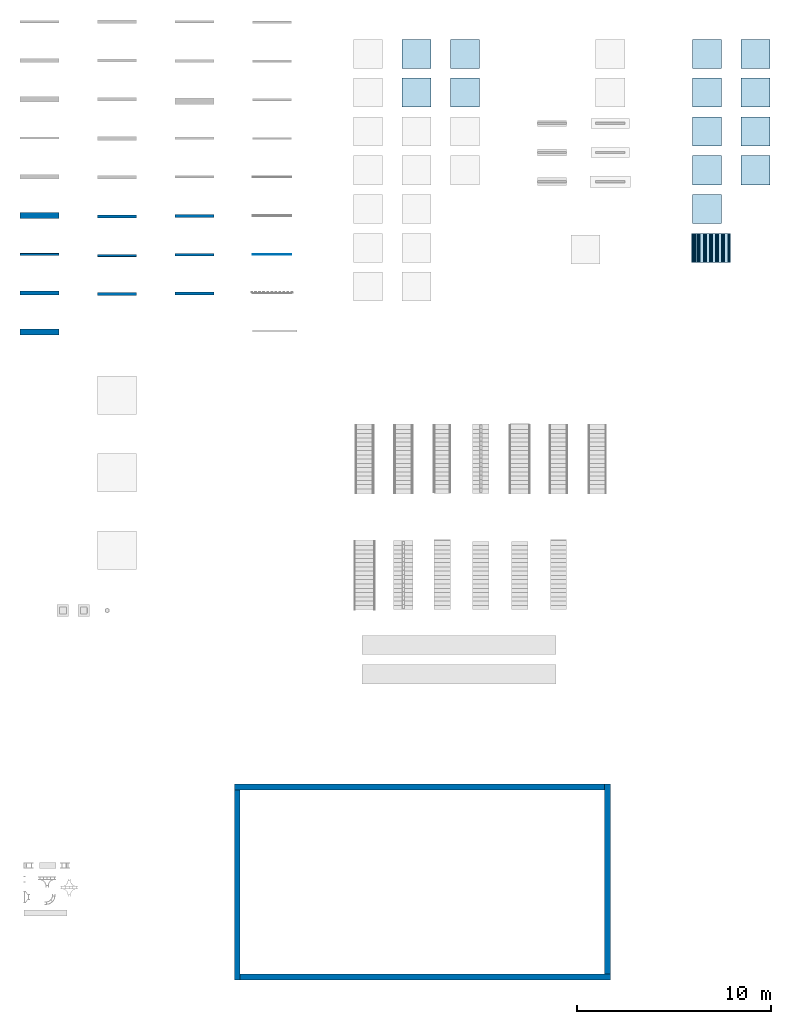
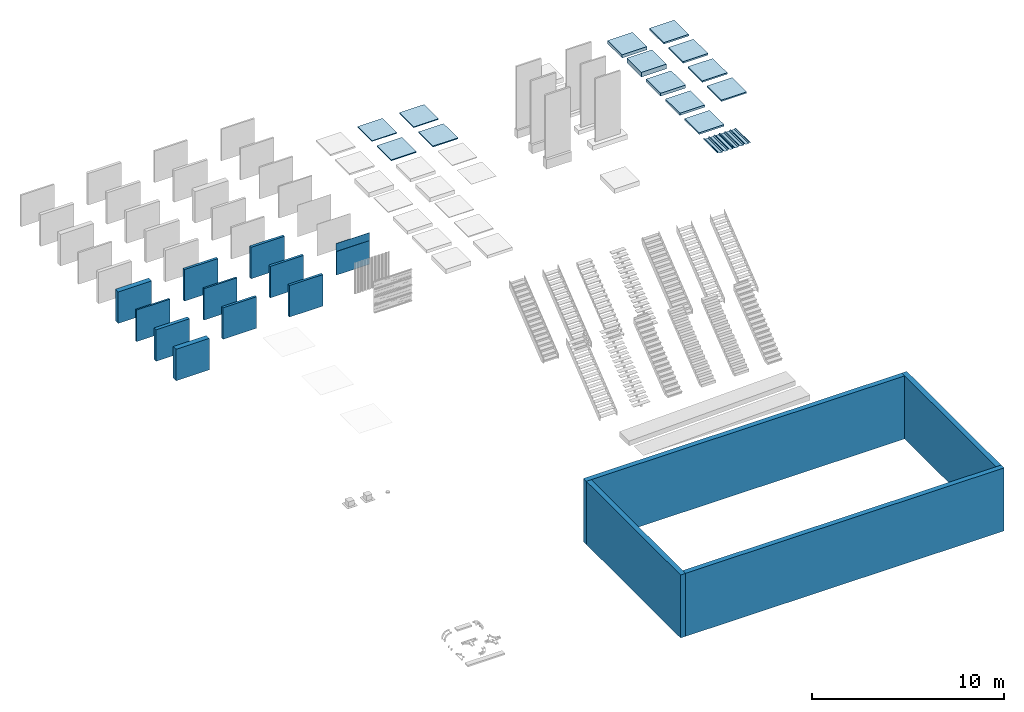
# One storey, part 4 of 13: 16 walls, 13 slabs, 2 plates, 10 elements without a shape of their own.
"""IFC2X3 building model written with IfcOpenShell, lengths in millimetres."""

from ifc_helpers import new_model, entity, si_unit, converted_unit, derived_unit, direction, frame, frame_2d, origin, origin_2d_with_axis, place, context, subcontext, project, spatial, polyline, rectangle, outline, extrude, source, transform, mapped, material, layer, layer_set, layer_usage, type_object, type_shapes, element, aggregate, save


model = new_model("IFC2X3")

# Units and contexts
model_context = context("Model", 3, precision=0.01, world=origin(), true_north=direction((6.12303176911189e-17, 1.0)))
body_context = subcontext(model_context, "Body", "Model", "MODEL_VIEW")
ifc_project = project(units=[si_unit("LENGTHUNIT", "METRE", prefix="MILLI"), si_unit("AREAUNIT", "SQUARE_METRE"), si_unit("VOLUMEUNIT", "CUBIC_METRE"), converted_unit("PLANEANGLEUNIT", "DEGREE", entity("IfcRatioMeasure", 0.0174532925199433), si_unit("PLANEANGLEUNIT", "RADIAN"), dimensions=[0, 0, 0, 0, 0, 0, 0]), si_unit("MASSUNIT", "GRAM", prefix="KILO"), si_unit("TIMEUNIT", "SECOND"), si_unit("FREQUENCYUNIT", "HERTZ"), si_unit("THERMODYNAMICTEMPERATUREUNIT", "KELVIN"), derived_unit("THERMALTRANSMITTANCEUNIT", [(si_unit("MASSUNIT", "GRAM", prefix="KILO"), 1), (si_unit("THERMODYNAMICTEMPERATUREUNIT", "KELVIN"), -1), (si_unit("TIMEUNIT", "SECOND"), -3)]), derived_unit("VOLUMETRICFLOWRATEUNIT", [(si_unit("LENGTHUNIT", "METRE"), 3), (si_unit("TIMEUNIT", "SECOND"), -1)]), si_unit("ELECTRICCURRENTUNIT", "AMPERE"), si_unit("ELECTRICVOLTAGEUNIT", "VOLT"), si_unit("POWERUNIT", "WATT")], contexts=[model_context])

# Site, building, storey
site_placement = place(None, origin())
site = spatial("IfcSite", under=ifc_project, at=site_placement, Name="Surface", CompositionType="ELEMENT")
building_placement = place(site_placement, origin())
building = spatial("IfcBuilding", under=site, at=building_placement, CompositionType="ELEMENT")
storey_placement = place(building_placement, origin())
storey = spatial("IfcBuildingStorey", under=building, at=storey_placement, Name="00_begane grond", CompositionType="ELEMENT", Elevation=0.0)

# Roof, plates
curtain_wall_type = type_object("IfcCurtainWallType", Name="Sloped Glazing:27_CW_SAB58KD_945mm", PredefinedType="NOTDEFINED")
roof_1_placement = place(storey_placement, origin())
roof_1 = element("IfcRoof", 1, at=roof_1_placement, inside=storey, type_object=curtain_wall_type, Name="Sloped Glazing:27_CW_SAB58KD_945mm", ObjectType="Sloped Glazing:27_CW_SAB58KD_945mm:1393", ShapeType="NOTDEFINED")
plate_type_1 = type_object("IfcPlateType", Name="SAB58KD_945", PredefinedType="NOTDEFINED")
shared_shape_1 = source(origin(), body_context, "Body", "SweptSolid", [
    extrude(outline(polyline([(-41.6883369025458, -6.31626557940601), (-38.0537855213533, -6.31626557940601), (-6.51645922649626, 14.7086186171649), (-5.11855484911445, 18.063589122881), (44.5780594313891, 51.1946653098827), (119.78533029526, 31.0648525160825), (162.475119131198, 59.5247117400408), (172.819626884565, 136.689043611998), (222.51559042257, 169.819685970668), (226.150141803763, 169.819685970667), (257.68746809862, 190.844570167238), (259.085372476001, 194.199540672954), (308.781608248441, 227.330364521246), (383.988986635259, 207.200623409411), (416.028687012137, 228.560423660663), (397.342743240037, 286.371121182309), (408.300957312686, 293.676597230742), (418.90416186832, 283.514998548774), (420.28798638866, 284.958961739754), (408.526464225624, 296.23063602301), (394.974288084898, 287.195851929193), (413.660231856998, 229.385154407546), (383.632257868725, 209.366505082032), (308.424879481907, 229.496246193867), (257.472122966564, 195.527741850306), (256.074218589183, 192.17277134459), (225.544590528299, 171.819685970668), (221.910039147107, 171.819685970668), (170.95755361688, 137.851362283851), (160.613045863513, 60.6870304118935), (119.428602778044, 33.2307350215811), (44.2213319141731, 53.3605478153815), (-6.73180435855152, 19.3917903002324), (-8.12970873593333, 16.0368197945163), (-38.6593367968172, -4.31626557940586), (-42.2938881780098, -4.31626557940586), (-93.2479062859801, -38.2856109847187), (-103.592414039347, -115.449942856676), (-144.776857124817, -142.906238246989), (-219.984127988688, -122.776425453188), (-270.937264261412, -156.745182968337), (-272.335168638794, -160.100153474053), (-302.864796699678, -180.453238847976), (-306.49934808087, -180.453238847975), (-357.44939838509, -214.419939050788), (-368.151786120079, -294.22655842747), (-407.873068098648, -320.707413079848), (-423.86478432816, -316.569685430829), (-432.461053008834, -311.156883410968), (-433.526726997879, -312.849319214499), (-424.667084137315, -318.427959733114), (-407.507999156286, -322.867734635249), (-366.289758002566, -295.388907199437), (-355.587370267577, -215.582287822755), (-305.893796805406, -182.453238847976), (-302.259245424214, -182.453238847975), (-270.721919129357, -161.428354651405), (-269.324014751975, -158.073384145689), (-219.627400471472, -124.942307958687), (-144.420129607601, -145.072120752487), (-101.730340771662, -116.612261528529), (-91.3858330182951, -39.4479296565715), (-41.6883369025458, -6.31626557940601)])), frame((534.253619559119, 42.597426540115, 0.0), z_axis=(0.0, 0.0, 1.0), x_axis=(0.832050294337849, -0.55470019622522, 0.0)), (0.0, 0.0, 1.0), 1500.0),
])
type_shapes(plate_type_1, [shared_shape_1])
plate_1_placement = place(roof_1_placement, frame((34647.8084880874, -13415.0, 64.0), z_axis=(0.0, 1.0, 0.0), x_axis=(1.0, 0.0, 0.0)))
plate_1 = element("IfcPlate", 2, at=plate_1_placement, type_object=plate_type_1, Name="27_CWP_SAB58KD_945:SAB58KD_945", ObjectType="SAB58KD_945", context=body_context, shape_type="MappedRepresentation", body=[
    mapped(shared_shape_1, transform((0.0, 0.0, 0.0), scale=1.0)),
])
plate_type_2 = type_object("IfcPlateType", Name="SAB58KD_945", PredefinedType="NOTDEFINED")
shared_shape_2 = source(origin(), body_context, "Body", "SweptSolid", [
    extrude(outline(polyline([(-41.688336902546, -6.31626557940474), (-38.0537855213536, -6.31626557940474), (-6.51645922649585, 14.7086186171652), (-5.11855484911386, 18.0635891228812), (44.5780594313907, 51.1946653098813), (119.785330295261, 31.0648525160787), (162.4751191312, 59.5247117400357), (172.819626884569, 136.689043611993), (222.515590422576, 169.819685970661), (226.150141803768, 169.81968597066), (257.687468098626, 190.84457016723), (259.085372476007, 194.199540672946), (308.781608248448, 227.330364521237), (383.988986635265, 207.200623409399), (416.028687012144, 228.56042366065), (397.342743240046, 286.371121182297), (408.300957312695, 293.676597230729), (418.904161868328, 283.514998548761), (420.287986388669, 284.958961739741), (408.526464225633, 296.230636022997), (394.974288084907, 287.19585192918), (413.660231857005, 229.385154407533), (383.632257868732, 209.36650508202), (308.424879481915, 229.496246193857), (257.47212296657, 195.527741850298), (256.074218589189, 192.172771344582), (225.544590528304, 171.81968597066), (221.910039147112, 171.819685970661), (170.957553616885, 137.851362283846), (160.613045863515, 60.6870304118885), (119.428602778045, 33.2307350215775), (44.2213319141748, 53.3605478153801), (-6.73180435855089, 19.3917903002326), (-8.1297087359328, 16.0368197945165), (-38.6593367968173, -4.31626557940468), (-42.2938881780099, -4.31626557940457), (-93.2479062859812, -38.2856109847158), (-103.592414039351, -115.449942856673), (-144.776857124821, -142.906238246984), (-219.984127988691, -122.776425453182), (-270.937264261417, -156.745182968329), (-272.335168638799, -160.100153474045), (-302.864796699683, -180.453238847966), (-306.499348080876, -180.453238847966), (-357.449398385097, -214.419939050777), (-368.151786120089, -294.226558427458), (-407.873068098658, -320.707413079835), (-423.86478432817, -316.569685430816), (-432.461053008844, -311.156883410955), (-433.526726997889, -312.849319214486), (-424.667084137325, -318.427959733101), (-407.507999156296, -322.867734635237), (-366.289758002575, -295.388907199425), (-355.587370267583, -215.582287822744), (-305.893796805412, -182.453238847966), (-302.259245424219, -182.453238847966), (-270.721919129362, -161.428354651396), (-269.32401475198, -158.07338414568), (-219.627400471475, -124.94230795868), (-144.420129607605, -145.072120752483), (-101.730340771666, -116.612261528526), (-91.3858330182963, -39.4479296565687), (-41.688336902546, -6.31626557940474)])), frame((534.253619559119, 42.597426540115, 0.0), z_axis=(0.0, 0.0, 1.0), x_axis=(0.832050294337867, -0.554700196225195, 0.0)), (0.0, 0.0, 1.0), 1500.0),
])
type_shapes(plate_type_2, [shared_shape_2])
plate_2_placement = place(roof_1_placement, frame((35592.8084880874, -13415.0, 64.0), z_axis=(0.0, 1.0, 0.0), x_axis=(1.0, 0.0, 0.0)))
plate_2 = element("IfcPlate", 3, at=plate_2_placement, type_object=plate_type_2, Name="27_CWP_SAB58KD_945:SAB58KD_945", ObjectType="SAB58KD_945", context=body_context, shape_type="MappedRepresentation", body=[
    mapped(shared_shape_2, transform((0.0, 0.0, 0.0), scale=1.0)),
])
aggregate(roof_1, [plate_1, plate_2])

# Slabs
ifc_material_1 = material(Name="28_beton_prefab_C45_55")
ifc_layer_1 = layer(ifc_material_1, 50.0)
ifc_layer_set_1 = layer_set([ifc_layer_1], Name="Floor:23_FL_breedplaat_50")
ifc_layer_usage_1 = layer_usage(ifc_layer_set_1, "AXIS3", "POSITIVE", 0.0)
slab_1_placement = place(storey_placement, origin())
element("IfcSlab", 4, at=slab_1_placement, inside=storey, material=ifc_layer_usage_1, Name="Floor:23_FL_breedplaat_50", ObjectType="Floor:23_FL_breedplaat_50", PredefinedType="FLOOR", context=body_context, shape_type="SweptSolid", body=[
    extrude(rectangle(XDim=1500.0, YDim=1500.00000000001, at=frame_2d((-1.13686837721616e-13, 0.0), x_axis=(1.0, 0.0))), frame((20443.3473849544, -2665.0, 0.0), z_axis=(0.0, 0.0, -1.0), x_axis=(0.0, 1.0, 0.0)), (0.0, 0.0, 1.0), 50.0),
])
ifc_layer_2 = layer(ifc_material_1, 60.0)
ifc_layer_set_2 = layer_set([ifc_layer_2], Name="Floor:23_FL_breedplaat_60")
ifc_layer_usage_2 = layer_usage(ifc_layer_set_2, "AXIS3", "POSITIVE", 0.0)
slab_2_placement = place(storey_placement, origin())
element("IfcSlab", 5, at=slab_2_placement, inside=storey, material=ifc_layer_usage_2, Name="Floor:23_FL_breedplaat_60", ObjectType="Floor:23_FL_breedplaat_60", PredefinedType="FLOOR", context=body_context, shape_type="SweptSolid", body=[
    extrude(rectangle(XDim=1500.0, YDim=1500.00000000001, at=frame_2d((-5.11590769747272e-13, 0.0), x_axis=(1.0, 0.0))), frame((20443.3473849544, -4665.0, 0.0), z_axis=(0.0, 0.0, -1.0), x_axis=(0.0, 1.0, 0.0)), (0.0, 0.0, 1.0), 60.0),
])
ifc_material_2 = material(Name="43_dekvloer_zandcement")
ifc_layer_3 = layer(ifc_material_2, 50.0)
ifc_layer_set_3 = layer_set([ifc_layer_3], Name="Floor:43_FL_cementdekvloer_50")
ifc_layer_usage_3 = layer_usage(ifc_layer_set_3, "AXIS3", "POSITIVE", 0.0)
slab_3_placement = place(storey_placement, origin())
element("IfcSlab", 6, at=slab_3_placement, inside=storey, material=ifc_layer_usage_3, Name="Floor:43_FL_cementdekvloer_50", ObjectType="Floor:43_FL_cementdekvloer_50", PredefinedType="FLOOR", context=body_context, shape_type="SweptSolid", body=[
    extrude(rectangle(XDim=1500.0, YDim=1500.00000000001, at=frame_2d((1.70530256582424e-13, 0.0), x_axis=(1.0, 0.0))), frame((22943.3473849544, -2665.0, 0.0), z_axis=(0.0, 0.0, -1.0), x_axis=(0.0, 1.0, 0.0)), (0.0, 0.0, 1.0), 50.0),
])
ifc_layer_4 = layer(ifc_material_2, 70.0)
ifc_layer_set_4 = layer_set([ifc_layer_4], Name="Floor:43_FL_cementdekvloer_70")
ifc_layer_usage_4 = layer_usage(ifc_layer_set_4, "AXIS3", "POSITIVE", 0.0)
slab_4_placement = place(storey_placement, origin())
element("IfcSlab", 7, at=slab_4_placement, inside=storey, material=ifc_layer_usage_4, Name="Floor:43_FL_cementdekvloer_70", ObjectType="Floor:43_FL_cementdekvloer_70", PredefinedType="FLOOR", context=body_context, shape_type="SweptSolid", body=[
    extrude(rectangle(XDim=1500.0, YDim=1500.00000000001, at=origin_2d_with_axis()), frame((22943.3473849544, -4665.0, 0.0), z_axis=(0.0, 0.0, -1.0), x_axis=(0.0, 1.0, 0.0)), (0.0, 0.0, 1.0), 70.0),
])

# Roof, slab
roof_2_placement = place(storey_placement, frame((34693.3473849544, -3415.0, 0.0)))
roof_2 = element("IfcRoof", 8, at=roof_2_placement, inside=storey, Name="Basic Roof:27_RO_generiek_200", ObjectType="Basic Roof:27_RO_generiek_200", ShapeType="NOTDEFINED")
ifc_material_3 = material(Name="Default")
ifc_layer_5 = layer(ifc_material_3, 200.0)
ifc_layer_set_5 = layer_set([ifc_layer_5], Name="Basic Roof:27_RO_generiek_200")
slab_5_placement = place(roof_2_placement, origin())
slab_5 = element("IfcSlab", 9, at=slab_5_placement, material=ifc_layer_set_5, Name="Basic Roof:27_RO_generiek_200", ObjectType="Basic Roof:27_RO_generiek_200", PredefinedType="ROOF", context=body_context, shape_type="SweptSolid", body=[
    extrude(rectangle(XDim=1500.0, YDim=1500.0, at=frame_2d((-2.1600499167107e-12, 0.0), x_axis=(1.0, 0.0))), frame((750.0, 750.0, 0.0)), (0.0, 0.0, 1.0), 200.0),
])
aggregate(roof_2, [slab_5])

roof_3_placement = place(storey_placement, frame((34693.3473849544, -5415.0, 0.0)))
roof_3 = element("IfcRoof", 10, at=roof_3_placement, inside=storey, Name="Basic Roof:27_RO_generiek_300", ObjectType="Basic Roof:27_RO_generiek_300", ShapeType="NOTDEFINED")
ifc_layer_6 = layer(ifc_material_3, 300.0)
ifc_layer_set_6 = layer_set([ifc_layer_6], Name="Basic Roof:27_RO_generiek_300")
slab_6_placement = place(roof_3_placement, origin())
slab_6 = element("IfcSlab", 11, at=slab_6_placement, material=ifc_layer_set_6, Name="Basic Roof:27_RO_generiek_300", ObjectType="Basic Roof:27_RO_generiek_300", PredefinedType="ROOF", context=body_context, shape_type="SweptSolid", body=[
    extrude(rectangle(XDim=1500.0, YDim=1500.0, at=frame_2d((2.1600499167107e-12, 0.0), x_axis=(1.0, 0.0))), frame((750.0, 750.0, 0.0)), (0.0, 0.0, 1.0), 300.0),
])
aggregate(roof_3, [slab_6])

roof_4_placement = place(storey_placement, frame((37193.3473849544, -3415.0, 0.0)))
roof_4 = element("IfcRoof", 12, at=roof_4_placement, inside=storey, Name="Basic Roof:47_RO_isolatie_PIR_bitumen_82_80-2", ObjectType="Basic Roof:47_RO_isolatie_PIR_bitumen_82_80-2", ShapeType="NOTDEFINED")
ifc_material_4 = material(Name="47_bitumen")
ifc_layer_7 = layer(ifc_material_4, 2.0)
ifc_material_5 = material(Name="20_isolatie_PIR")
ifc_layer_8 = layer(ifc_material_5, 100.0)
ifc_layer_set_7 = layer_set([ifc_layer_7, ifc_layer_8], Name="Basic Roof:47_RO_isolatie_PIR_bitumen_82_80-2")
slab_7_placement = place(roof_4_placement, origin())
slab_7 = element("IfcSlab", 13, at=slab_7_placement, material=ifc_layer_set_7, Name="Basic Roof:47_RO_isolatie_PIR_bitumen_82_80-2", ObjectType="Basic Roof:47_RO_isolatie_PIR_bitumen_82_80-2", PredefinedType="ROOF", context=body_context, shape_type="SweptSolid", body=[
    extrude(rectangle(XDim=1500.0, YDim=1500.0, at=frame_2d((2.1600499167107e-12, 0.0), x_axis=(1.0, 0.0))), frame((750.0, 750.0, 0.0)), (0.0, 0.0, 1.0), 102.0),
])
aggregate(roof_4, [slab_7])

roof_5_placement = place(storey_placement, frame((37193.3473849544, -5415.0, 0.0)))
roof_5 = element("IfcRoof", 14, at=roof_5_placement, inside=storey, Name="Basic Roof:47_RO_isolatie_EPS_bitumen_102_100-2", ObjectType="Basic Roof:47_RO_isolatie_EPS_bitumen_102_100-2", ShapeType="NOTDEFINED")
ifc_layer_9 = layer(ifc_material_4, 2.0)
ifc_material_6 = material(Name="20_isolatie_EPS")
ifc_layer_10 = layer(ifc_material_6, 100.0)
ifc_layer_set_8 = layer_set([ifc_layer_9, ifc_layer_10], Name="Basic Roof:47_RO_isolatie_EPS_bitumen_102_100-2")
slab_8_placement = place(roof_5_placement, origin())
slab_8 = element("IfcSlab", 15, at=slab_8_placement, material=ifc_layer_set_8, Name="Basic Roof:47_RO_isolatie_EPS_bitumen_102_100-2", ObjectType="Basic Roof:47_RO_isolatie_EPS_bitumen_102_100-2", PredefinedType="ROOF", context=body_context, shape_type="SweptSolid", body=[
    extrude(rectangle(XDim=1500.0, YDim=1500.0, at=frame_2d((-2.1600499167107e-12, 0.0), x_axis=(1.0, 0.0))), frame((750.0, 750.0, 0.0)), (0.0, 0.0, 1.0), 102.0),
])
aggregate(roof_5, [slab_8])

roof_6_placement = place(storey_placement, frame((34693.3473849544, -7415.0, 0.0)))
roof_6 = element("IfcRoof", 16, at=roof_6_placement, inside=storey, Name="Basic Roof:27_RO_hout_underlayment_189_171-18", ObjectType="Basic Roof:27_RO_hout_underlayment_189_171-18", ShapeType="NOTDEFINED")
ifc_material_7 = material(Name="27_beplating_underlayment")
ifc_layer_11 = layer(ifc_material_7, 18.0)
ifc_material_8 = material(Name="27_houten_balklaag_geventileerd")
ifc_layer_12 = layer(ifc_material_8, 171.0)
ifc_layer_set_9 = layer_set([ifc_layer_11, ifc_layer_12], Name="Basic Roof:27_RO_hout_underlayment_189_171-18")
slab_9_placement = place(roof_6_placement, origin())
slab_9 = element("IfcSlab", 17, at=slab_9_placement, material=ifc_layer_set_9, Name="Basic Roof:27_RO_hout_underlayment_189_171-18", ObjectType="Basic Roof:27_RO_hout_underlayment_189_171-18", PredefinedType="ROOF", context=body_context, shape_type="SweptSolid", body=[
    extrude(rectangle(XDim=1500.0, YDim=1500.0, at=frame_2d((-2.1600499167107e-12, 0.0), x_axis=(1.0, 0.0))), frame((750.0, 750.0, 0.0)), (0.0, 0.0, 1.0), 189.0),
])
aggregate(roof_6, [slab_9])

roof_7_placement = place(storey_placement, frame((34693.3473849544, -9415.0, 0.0)))
roof_7 = element("IfcRoof", 18, at=roof_7_placement, inside=storey, Name="Basic Roof:27_RO_dakplaat_enkelschalig_PIR_135_33-90-12", ObjectType="Basic Roof:27_RO_dakplaat_enkelschalig_PIR_135_33-90-12", ShapeType="NOTDEFINED")
ifc_material_9 = material(Name="00_lucht_spouw_dak_geventileerd")
ifc_layer_13 = layer(ifc_material_9, 33.0)
ifc_layer_14 = layer(ifc_material_5, 90.0)
ifc_material_10 = material(Name="20_beplating_MDF")
ifc_layer_15 = layer(ifc_material_10, 12.0)
ifc_layer_set_10 = layer_set([ifc_layer_13, ifc_layer_14, ifc_layer_15], Name="Basic Roof:27_RO_dakplaat_enkelschalig_PIR_135_33-90-12")
slab_10_placement = place(roof_7_placement, origin())
slab_10 = element("IfcSlab", 19, at=slab_10_placement, material=ifc_layer_set_10, Name="Basic Roof:27_RO_dakplaat_enkelschalig_PIR_135_33-90-12", ObjectType="Basic Roof:27_RO_dakplaat_enkelschalig_PIR_135_33-90-12", PredefinedType="ROOF", context=body_context, shape_type="SweptSolid", body=[
    extrude(rectangle(XDim=1500.0, YDim=1500.0, at=frame_2d((2.1600499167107e-12, 0.0), x_axis=(1.0, 0.0))), frame((750.0, 750.0, 0.0)), (0.0, 0.0, 1.0), 135.0),
])
aggregate(roof_7, [slab_10])

roof_8_placement = place(storey_placement, frame((37193.3473849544, -7415.0, 0.0)))
roof_8 = element("IfcRoof", 20, at=roof_8_placement, inside=storey, Name="Basic Roof:47_RO_dakpan_grijs_300x300", ObjectType="Basic Roof:47_RO_dakpan_grijs_300x300", ShapeType="NOTDEFINED")
ifc_material_11 = material(Name="47_dakpan_grijs")
ifc_layer_16 = layer(ifc_material_11, 70.0)
ifc_material_12 = material(Name="47_panlat_geventileerd")
ifc_layer_17 = layer(ifc_material_12, 22.0)
ifc_layer_set_11 = layer_set([ifc_layer_16, ifc_layer_17], Name="Basic Roof:47_RO_dakpan_grijs_300x300")
slab_11_placement = place(roof_8_placement, origin())
slab_11 = element("IfcSlab", 21, at=slab_11_placement, material=ifc_layer_set_11, Name="Basic Roof:47_RO_dakpan_grijs_300x300", ObjectType="Basic Roof:47_RO_dakpan_grijs_300x300", PredefinedType="ROOF", context=body_context, shape_type="SweptSolid", body=[
    extrude(rectangle(XDim=1500.0, YDim=1500.0, at=frame_2d((2.1600499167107e-12, 5.11590769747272e-13), x_axis=(1.0, 0.0))), frame((750.0, 750.0, 0.0)), (0.0, 0.0, 1.0), 92.0),
])
aggregate(roof_8, [slab_11])

roof_9_placement = place(storey_placement, frame((37193.3473849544, -9415.0, 0.0)))
roof_9 = element("IfcRoof", 22, at=roof_9_placement, inside=storey, Name="Basic Roof:47_RO_dakpan_rood_300x300", ObjectType="Basic Roof:47_RO_dakpan_rood_300x300", ShapeType="NOTDEFINED")
ifc_material_13 = material(Name="47_dakpan_rood")
ifc_layer_18 = layer(ifc_material_13, 70.0)
ifc_layer_19 = layer(ifc_material_12, 22.0)
ifc_layer_set_12 = layer_set([ifc_layer_18, ifc_layer_19], Name="Basic Roof:47_RO_dakpan_rood_300x300")
slab_12_placement = place(roof_9_placement, origin())
slab_12 = element("IfcSlab", 23, at=slab_12_placement, material=ifc_layer_set_12, Name="Basic Roof:47_RO_dakpan_rood_300x300", ObjectType="Basic Roof:47_RO_dakpan_rood_300x300", PredefinedType="ROOF", context=body_context, shape_type="SweptSolid", body=[
    extrude(rectangle(XDim=1500.0, YDim=1500.0, at=frame_2d((-2.1600499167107e-12, 5.11590769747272e-13), x_axis=(1.0, 0.0))), frame((750.0, 750.0, 0.0)), (0.0, 0.0, 1.0), 92.0),
])
aggregate(roof_9, [slab_12])

roof_10_placement = place(storey_placement, frame((34693.3473849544, -11415.0, 0.0)))
roof_10 = element("IfcRoof", 24, at=roof_10_placement, inside=storey, Name="Basic Roof:27_RO_dakplaat_sandwich_PIR_106_20-3-80-3", ObjectType="Basic Roof:27_RO_dakplaat_sandwich_PIR_106_20-3-80-3", ShapeType="NOTDEFINED")
ifc_material_14 = material(Name="27_tengels_geventileerd")
ifc_layer_20 = layer(ifc_material_14, 20.0)
ifc_layer_21 = layer(ifc_material_10, 3.0)
ifc_layer_22 = layer(ifc_material_5, 80.0)
ifc_layer_23 = layer(ifc_material_10, 3.0)
ifc_layer_set_13 = layer_set([ifc_layer_20, ifc_layer_21, ifc_layer_22, ifc_layer_23], Name="Basic Roof:27_RO_dakplaat_sandwich_PIR_106_20-3-80-3")
slab_13_placement = place(roof_10_placement, origin())
slab_13 = element("IfcSlab", 25, at=slab_13_placement, material=ifc_layer_set_13, Name="Basic Roof:27_RO_dakplaat_sandwich_PIR_106_20-3-80-3", ObjectType="Basic Roof:27_RO_dakplaat_sandwich_PIR_106_20-3-80-3", PredefinedType="ROOF", context=body_context, shape_type="SweptSolid", body=[
    extrude(rectangle(XDim=1500.0, YDim=1500.0, at=frame_2d((-2.1600499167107e-12, 0.0), x_axis=(1.0, 0.0))), frame((750.0, 750.0, 0.0)), (0.0, 0.0, 1.0), 106.0),
])
aggregate(roof_10, [slab_13])

# Walls
ifc_layer_24 = layer(ifc_material_3, 300.0)
ifc_layer_set_14 = layer_set([ifc_layer_24], Name="Basic Wall:20_WA_wand_generiek_300")
ifc_layer_usage_5 = layer_usage(ifc_layer_set_14, "AXIS2", "NEGATIVE", 150.0)
wall_type_1 = type_object("IfcWallType", Name="Basic Wall:20_WA_wand_generiek_300", PredefinedType="STANDARD", material=ifc_layer_set_14)
wall_1_placement = place(storey_placement, frame((30458.0792090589, -50280.5041637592, 0.0), z_axis=(0.0, 0.0, 1.0), x_axis=(-1.0, 0.0, 0.0)))
element("IfcWallStandardCase", 26, at=wall_1_placement, inside=storey, type_object=wall_type_1, material=ifc_layer_usage_5, Name="Basic Wall:20_WA_wand_generiek_300", ObjectType="Basic Wall:20_WA_wand_generiek_300", context=body_context, shape_type="SweptSolid", body=[
    extrude(rectangle(XDim=19100.0, YDim=300.000000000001, at=frame_2d((9550.0, 0.0), x_axis=(-1.0, 0.0))), origin(), (0.0, 0.0, 1.0), 4000.0),
])
ifc_layer_usage_6 = layer_usage(ifc_layer_set_14, "AXIS2", "NEGATIVE", 150.0)
wall_2_placement = place(storey_placement, frame((30308.0792090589, -40330.5041637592, 0.0), z_axis=(0.0, 0.0, 1.0), x_axis=(0.0, -1.0, 0.0)))
element("IfcWallStandardCase", 27, at=wall_2_placement, inside=storey, type_object=wall_type_1, material=ifc_layer_usage_6, Name="Basic Wall:20_WA_wand_generiek_300", ObjectType="Basic Wall:20_WA_wand_generiek_300", context=body_context, shape_type="SweptSolid", body=[
    extrude(rectangle(XDim=9800.0, YDim=300.000000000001, at=frame_2d((4900.0, 0.0), x_axis=(-1.0, 0.0))), origin(), (0.0, 0.0, 1.0), 4000.0),
])
ifc_layer_usage_7 = layer_usage(ifc_layer_set_14, "AXIS2", "NEGATIVE", 150.0)
wall_3_placement = place(storey_placement, frame((11058.0792090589, -40480.5041637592, 0.0)))
element("IfcWallStandardCase", 28, at=wall_3_placement, inside=storey, type_object=wall_type_1, material=ifc_layer_usage_7, Name="Basic Wall:20_WA_wand_generiek_300", ObjectType="Basic Wall:20_WA_wand_generiek_300", context=body_context, shape_type="SweptSolid", body=[
    extrude(rectangle(XDim=19100.0, YDim=300.000000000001, at=frame_2d((9550.0, 0.0), x_axis=(-1.0, 0.0))), origin(), (0.0, 0.0, 1.0), 4000.0),
])
ifc_layer_usage_8 = layer_usage(ifc_layer_set_14, "AXIS2", "NEGATIVE", 150.0)
wall_4_placement = place(storey_placement, frame((11208.0792090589, -50430.5041637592, 0.0), z_axis=(0.0, 0.0, 1.0), x_axis=(0.0, 1.0, 0.0)))
element("IfcWallStandardCase", 29, at=wall_4_placement, inside=storey, type_object=wall_type_1, material=ifc_layer_usage_8, Name="Basic Wall:20_WA_wand_generiek_300", ObjectType="Basic Wall:20_WA_wand_generiek_300", context=body_context, shape_type="SweptSolid", body=[
    extrude(rectangle(XDim=9800.0, YDim=300.000000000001, at=frame_2d((4900.0, 0.0), x_axis=(-1.0, 0.0))), origin(), (0.0, 0.0, 1.0), 4000.0),
])
ifc_material_15 = material(Name="20_baksteen_wf_210x100x50_10mm_voeg_halfsteens_rood_genuanceerd")
ifc_layer_25 = layer(ifc_material_15, 100.0)
ifc_layer_set_15 = layer_set([ifc_layer_25], Name="Basic Wall:21_WA_mw_100")
ifc_layer_usage_9 = layer_usage(ifc_layer_set_15, "AXIS2", "NEGATIVE", 50.0)
wall_type_2 = type_object("IfcWallType", Name="Basic Wall:21_WA_mw_100", PredefinedType="STANDARD", material=ifc_layer_set_15)
wall_5_placement = place(storey_placement, frame((0.0, -13000.0, 0.0)))
element("IfcWallStandardCase", 30, at=wall_5_placement, inside=storey, type_object=wall_type_2, material=ifc_layer_usage_9, Name="Basic Wall:21_WA_mw_100", ObjectType="Basic Wall:21_WA_mw_100", context=body_context, shape_type="SweptSolid", body=[
    extrude(rectangle(XDim=2000.0, YDim=99.9999999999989, at=frame_2d((1000.0, 5.32907051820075e-13), x_axis=(-1.0, 0.0))), origin(), (0.0, 0.0, 1.0), 2000.0),
])
ifc_layer_26 = layer(ifc_material_15, 210.0)
ifc_layer_set_16 = layer_set([ifc_layer_26], Name="Basic Wall:21_WA_mw_210")
ifc_layer_usage_10 = layer_usage(ifc_layer_set_16, "AXIS2", "NEGATIVE", 105.0)
wall_type_3 = type_object("IfcWallType", Name="Basic Wall:21_WA_mw_210", PredefinedType="STANDARD", material=ifc_layer_set_16)
wall_6_placement = place(storey_placement, frame((0.0, -15000.0, 0.0)))
element("IfcWallStandardCase", 31, at=wall_6_placement, inside=storey, type_object=wall_type_3, material=ifc_layer_usage_10, Name="Basic Wall:21_WA_mw_210", ObjectType="Basic Wall:21_WA_mw_210", context=body_context, shape_type="SweptSolid", body=[
    extrude(rectangle(XDim=2000.0, YDim=210.0, at=frame_2d((1000.0, 5.32907051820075e-13), x_axis=(-1.0, 0.0))), origin(), (0.0, 0.0, 1.0), 2000.0),
])
ifc_layer_27 = layer(ifc_material_15, 100.0)
ifc_material_16 = material(Name="00_lucht_spouw_muur_geventileerd")
ifc_layer_28 = layer(ifc_material_16, 100.0)
ifc_layer_29 = layer(ifc_material_15, 100.0)
ifc_layer_set_17 = layer_set([ifc_layer_27, ifc_layer_28, ifc_layer_29], Name="Basic Wall:21_WA_mw_spouw_mw_300_100-100-100")
ifc_layer_usage_11 = layer_usage(ifc_layer_set_17, "AXIS2", "NEGATIVE", 150.0)
wall_type_4 = type_object("IfcWallType", Name="Basic Wall:21_WA_mw_spouw_mw_300_100-100-100", PredefinedType="STANDARD", material=ifc_layer_set_17)
wall_7_placement = place(storey_placement, frame((0.0, -17000.0, 0.0)))
element("IfcWallStandardCase", 32, at=wall_7_placement, inside=storey, type_object=wall_type_4, material=ifc_layer_usage_11, Name="Basic Wall:21_WA_mw_spouw_mw_300_100-100-100", ObjectType="Basic Wall:21_WA_mw_spouw_mw_300_100-100-100", context=body_context, shape_type="SweptSolid", body=[
    extrude(rectangle(XDim=2000.0, YDim=300.000000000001, at=frame_2d((1000.0, 5.40012479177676e-13), x_axis=(-1.0, 0.0))), origin(), (0.0, 0.0, 1.0), 2000.0),
])
ifc_material_17 = material(Name="00_baksteen_bestaand")
ifc_layer_30 = layer(ifc_material_17, 100.0)
ifc_layer_31 = layer(ifc_material_16, 100.0)
ifc_layer_32 = layer(ifc_material_17, 100.0)
ifc_layer_set_18 = layer_set([ifc_layer_30, ifc_layer_31, ifc_layer_32], Name="Basic Wall:21_WA_mw-bestaand_spouw_mw-bestaand_300_100-100-100")
ifc_layer_usage_12 = layer_usage(ifc_layer_set_18, "AXIS2", "NEGATIVE", 150.0)
wall_type_5 = type_object("IfcWallType", Name="Basic Wall:21_WA_mw-bestaand_spouw_mw-bestaand_300_100-100-100", PredefinedType="STANDARD", material=ifc_layer_set_18)
wall_8_placement = place(storey_placement, frame((0.0, -11000.0, 0.0)))
element("IfcWallStandardCase", 33, at=wall_8_placement, inside=storey, type_object=wall_type_5, material=ifc_layer_usage_12, Name="Basic Wall:21_WA_mw-bestaand_spouw_mw-bestaand_300_100-100-100", ObjectType="Basic Wall:21_WA_mw-bestaand_spouw_mw-bestaand_300_100-100-100", context=body_context, shape_type="SweptSolid", body=[
    extrude(rectangle(XDim=2000.0, YDim=300.000000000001, at=frame_2d((1000.0, 5.40012479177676e-13), x_axis=(-1.0, 0.0))), origin(), (0.0, 0.0, 1.0), 2000.0),
])
ifc_material_18 = material(Name="40_stucwerk_exterieur_grof_wit")
ifc_layer_33 = layer(ifc_material_18, 30.0)
ifc_layer_34 = layer(ifc_material_6, 120.0)
ifc_layer_set_19 = layer_set([ifc_layer_33, ifc_layer_34], Name="Basic Wall:21_WA_stucwerk_iso-eps_150_30-120")
ifc_layer_usage_13 = layer_usage(ifc_layer_set_19, "AXIS2", "NEGATIVE", 75.0)
wall_type_6 = type_object("IfcWallType", Name="Basic Wall:21_WA_stucwerk_iso-eps_150_30-120", PredefinedType="STANDARD", material=ifc_layer_set_19)
wall_9_placement = place(storey_placement, frame((4000.0, -11045.0, 0.0)))
element("IfcWallStandardCase", 34, at=wall_9_placement, inside=storey, type_object=wall_type_6, material=ifc_layer_usage_13, Name="Basic Wall:21_WA_stucwerk_iso-eps_150_30-120", ObjectType="Basic Wall:21_WA_stucwerk_iso-eps_150_30-120", context=body_context, shape_type="SweptSolid", body=[
    extrude(rectangle(XDim=2000.0, YDim=150.000000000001, at=frame_2d((1000.0, 5.32907051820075e-13), x_axis=(-1.0, 0.0))), origin(), (0.0, 0.0, 1.0), 2000.0),
])
ifc_material_19 = material(Name="41_staal_geanodizeerd_wit")
ifc_layer_35 = layer(ifc_material_19, 1.6)
ifc_layer_36 = layer(ifc_material_5, 96.8)
ifc_layer_37 = layer(ifc_material_19, 1.6)
ifc_layer_set_20 = layer_set([ifc_layer_35, ifc_layer_36, ifc_layer_37], Name="Basic Wall:21_WA_sandwichpaneel_100x1000")
ifc_layer_usage_14 = layer_usage(ifc_layer_set_20, "AXIS2", "NEGATIVE", 50.0)
wall_type_7 = type_object("IfcWallType", Name="Basic Wall:21_WA_sandwichpaneel_100x1000", PredefinedType="STANDARD", material=ifc_layer_set_20)
wall_10_placement = place(storey_placement, frame((4000.0, -13070.0, 0.0)))
element("IfcWallStandardCase", 35, at=wall_10_placement, inside=storey, type_object=wall_type_7, material=ifc_layer_usage_14, Name="Basic Wall:21_WA_sandwichpaneel_100x1000", ObjectType="Basic Wall:21_WA_sandwichpaneel_100x1000", context=body_context, shape_type="SweptSolid", body=[
    extrude(rectangle(XDim=2000.0, YDim=99.9999999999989, at=frame_2d((1000.0, 5.32907051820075e-13), x_axis=(-1.0, 0.0))), origin(), (0.0, 0.0, 1.0), 2000.0),
])
ifc_layer_38 = layer(ifc_material_1, 150.0)
ifc_layer_set_21 = layer_set([ifc_layer_38], Name="Basic Wall:28_WA_prefabb_C45_150")
ifc_layer_usage_15 = layer_usage(ifc_layer_set_21, "AXIS2", "NEGATIVE", 75.0)
wall_type_8 = type_object("IfcWallType", Name="Basic Wall:28_WA_prefabb_C45_150", PredefinedType="STANDARD", material=ifc_layer_set_21)
wall_11_placement = place(storey_placement, frame((8000.0, -13025.0, 0.0)))
element("IfcWallStandardCase", 36, at=wall_11_placement, inside=storey, type_object=wall_type_8, material=ifc_layer_usage_15, Name="Basic Wall:28_WA_prefabb_C45_150", ObjectType="Basic Wall:28_WA_prefabb_C45_150", context=body_context, shape_type="SweptSolid", body=[
    extrude(rectangle(XDim=2000.0, YDim=150.000000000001, at=frame_2d((1000.0, 5.32907051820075e-13), x_axis=(-1.0, 0.0))), origin(), (0.0, 0.0, 1.0), 2000.0),
])
ifc_material_20 = material(Name="40_stucwerk_interieur_fijn_wit")
ifc_layer_39 = layer(ifc_material_20, 20.0)
ifc_layer_set_22 = layer_set([ifc_layer_39], Name="Basic Wall:42_WA_stucwerk_20")
ifc_layer_usage_16 = layer_usage(ifc_layer_set_22, "AXIS2", "NEGATIVE", 10.0)
wall_type_9 = type_object("IfcWallType", Name="Basic Wall:42_WA_stucwerk_20", PredefinedType="STANDARD", material=ifc_layer_set_22)
wall_12_placement = place(storey_placement, frame((12000.0, -13012.5, 1500.0)))
element("IfcWallStandardCase", 37, at=wall_12_placement, inside=storey, type_object=wall_type_9, material=ifc_layer_usage_16, Name="Basic Wall:42_WA_stucwerk_20", ObjectType="Basic Wall:42_WA_stucwerk_20", context=body_context, shape_type="SweptSolid", body=[
    extrude(rectangle(XDim=2000.0, YDim=19.9999999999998, at=frame_2d((1000.0, 5.32907051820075e-13), x_axis=(-1.0, 0.0))), origin(), (0.0, 0.0, 1.0), 500.0),
])
ifc_material_21 = material(Name="40_tegels_keramisch_150x150mm_wit")
ifc_layer_40 = layer(ifc_material_21, 10.0)
ifc_material_22 = material(Name="00_zandcement")
ifc_layer_41 = layer(ifc_material_22, 20.0)
ifc_layer_set_23 = layer_set([ifc_layer_40, ifc_layer_41], Name="Basic Wall:42_WA_tegelwerk_150x150x10mm_op cementmortel_wit")
ifc_layer_usage_17 = layer_usage(ifc_layer_set_23, "AXIS2", "NEGATIVE", 15.0)
wall_type_10 = type_object("IfcWallType", Name="Basic Wall:42_WA_tegelwerk_150x150x10mm_op cementmortel_wit", PredefinedType="STANDARD", material=ifc_layer_set_23)
wall_13_placement = place(storey_placement, frame((12000.0, -13012.5, 0.0)))
element("IfcWallStandardCase", 38, at=wall_13_placement, inside=storey, type_object=wall_type_10, material=ifc_layer_usage_17, Name="Basic Wall:42_WA_tegelwerk_150x150x10mm_op cementmortel_wit", ObjectType="Basic Wall:42_WA_tegelwerk_150x150x10mm_op cementmortel_wit", context=body_context, shape_type="SweptSolid", body=[
    extrude(rectangle(XDim=2000.0, YDim=30.0000000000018, at=frame_2d((1000.0, 5.32907051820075e-13), x_axis=(-1.0, 0.0))), origin(), (0.0, 0.0, 1.0), 1500.0),
])
ifc_layer_42 = layer(ifc_material_16, 40.0)
ifc_material_23 = material(Name="20_isolatie_steenwol")
ifc_layer_43 = layer(ifc_material_23, 100.0)
ifc_layer_set_24 = layer_set([ifc_layer_42, ifc_layer_43], Name="Basic Wall:21_WA_spouw_iso-sw_140_40-100")
ifc_layer_usage_18 = layer_usage(ifc_layer_set_24, "AXIS2", "NEGATIVE", 70.0)
wall_type_11 = type_object("IfcWallType", Name="Basic Wall:21_WA_spouw_iso-sw_140_40-100", PredefinedType="STANDARD", material=ifc_layer_set_24)
wall_14_placement = place(storey_placement, frame((4000.0, -15050.0, 0.0)))
element("IfcWallStandardCase", 39, at=wall_14_placement, inside=storey, type_object=wall_type_11, material=ifc_layer_usage_18, Name="Basic Wall:21_WA_spouw_iso-sw_140_40-100", ObjectType="Basic Wall:21_WA_spouw_iso-sw_140_40-100", context=body_context, shape_type="SweptSolid", body=[
    extrude(rectangle(XDim=2000.0, YDim=139.999999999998, at=frame_2d((1000.0, 5.32907051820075e-13), x_axis=(-1.0, 0.0))), origin(), (0.0, 0.0, 1.0), 2000.0),
])
ifc_material_24 = material(Name="28_beton_ihwg_C25_30")
ifc_layer_44 = layer(ifc_material_24, 150.0)
ifc_layer_set_25 = layer_set([ifc_layer_44], Name="Basic Wall:28_WA_ihwgb_C25_150")
ifc_layer_usage_19 = layer_usage(ifc_layer_set_25, "AXIS2", "NEGATIVE", 75.0)
wall_type_12 = type_object("IfcWallType", Name="Basic Wall:28_WA_ihwgb_C25_150", PredefinedType="STANDARD", material=ifc_layer_set_25)
wall_15_placement = place(storey_placement, frame((8000.0, -15025.0, 0.0)))
element("IfcWallStandardCase", 40, at=wall_15_placement, inside=storey, type_object=wall_type_12, material=ifc_layer_usage_19, Name="Basic Wall:28_WA_ihwgb_C25_150", ObjectType="Basic Wall:28_WA_ihwgb_C25_150", context=body_context, shape_type="SweptSolid", body=[
    extrude(rectangle(XDim=2000.0, YDim=150.000000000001, at=frame_2d((1000.0, 5.32907051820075e-13), x_axis=(-1.0, 0.0))), origin(), (0.0, 0.0, 1.0), 2000.0),
])
ifc_material_25 = material(Name="28_cellenbeton_G4/600")
ifc_layer_45 = layer(ifc_material_25, 150.0)
ifc_layer_set_26 = layer_set([ifc_layer_45], Name="Basic Wall:28_WA_cb_G4/600_150")
ifc_layer_usage_20 = layer_usage(ifc_layer_set_26, "AXIS2", "NEGATIVE", 75.0)
wall_type_13 = type_object("IfcWallType", Name="Basic Wall:28_WA_cb_G4/600_150", PredefinedType="STANDARD", material=ifc_layer_set_26)
wall_16_placement = place(storey_placement, frame((8000.0, -11025.0, 0.0)))
element("IfcWallStandardCase", 41, at=wall_16_placement, inside=storey, type_object=wall_type_13, material=ifc_layer_usage_20, Name="Basic Wall:28_WA_cb_G4/600_150", ObjectType="Basic Wall:28_WA_cb_G4/600_150", context=body_context, shape_type="SweptSolid", body=[
    extrude(rectangle(XDim=2000.0, YDim=150.000000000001, at=frame_2d((1000.0, 5.32907051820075e-13), x_axis=(-1.0, 0.0))), origin(), (0.0, 0.0, 1.0), 2000.0),
])

save(model, "model.ifc")
